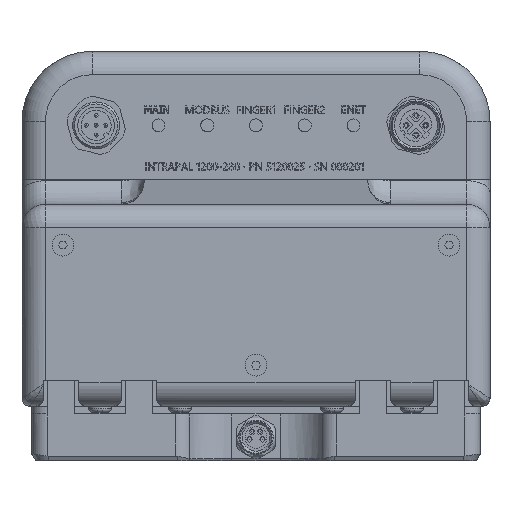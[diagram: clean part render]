
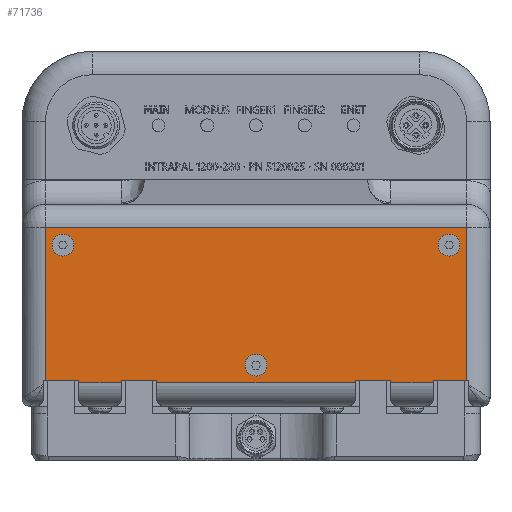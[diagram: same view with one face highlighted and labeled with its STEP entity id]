
A CAD part, front view. The second image highlights one B-rep face of the part: STEP entity #71736.
In plain terms, the highlighted planar face has unit normal (0, -1, 0).
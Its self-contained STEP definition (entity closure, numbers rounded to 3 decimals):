
#4946=FACE_BOUND('',#12518,.T.);
#4947=FACE_BOUND('',#12519,.T.);
#4948=FACE_BOUND('',#12520,.T.);
#5255=CIRCLE('',#74957,2.8);
#5257=CIRCLE('',#74961,2.8);
#5259=CIRCLE('',#74965,2.8);
#8336=FACE_OUTER_BOUND('',#12517,.T.);
#12517=EDGE_LOOP('',(#52214,#52215,#52216,#52217,#52218,#52219,#52220,#52221,
#52222,#52223,#52224,#52225,#52226,#52227,#52228,#52229));
#12518=EDGE_LOOP('',(#52230));
#12519=EDGE_LOOP('',(#52231));
#12520=EDGE_LOOP('',(#52232));
#16209=LINE('',#94226,#22508);
#16216=LINE('',#94253,#22515);
#16223=LINE('',#94267,#22522);
#16224=LINE('',#94271,#22523);
#16231=LINE('',#94286,#22530);
#16236=LINE('',#94311,#22535);
#16241=LINE('',#94350,#22540);
#16248=LINE('',#94377,#22547);
#16255=LINE('',#94393,#22554);
#16263=LINE('',#94421,#22562);
#17895=LINE('',#105535,#24194);
#17896=LINE('',#105537,#24195);
#17897=LINE('',#105539,#24196);
#17898=LINE('',#105540,#24197);
#17899=LINE('',#105541,#24198);
#17900=LINE('',#105542,#24199);
#22508=VECTOR('',#79808,10.);
#22515=VECTOR('',#79825,10.);
#22522=VECTOR('',#79838,10.);
#22523=VECTOR('',#79843,10.);
#22530=VECTOR('',#79858,10.);
#22535=VECTOR('',#79875,10.);
#22540=VECTOR('',#79896,10.);
#22547=VECTOR('',#79913,10.);
#22554=VECTOR('',#79928,10.);
#22562=VECTOR('',#79950,10.);
#24194=VECTOR('',#82884,10.);
#24195=VECTOR('',#82885,10.);
#24196=VECTOR('',#82886,10.);
#24197=VECTOR('',#82887,10.);
#24198=VECTOR('',#82888,10.);
#24199=VECTOR('',#82889,10.);
#28498=VERTEX_POINT('',#93382);
#28500=VERTEX_POINT('',#93389);
#28502=VERTEX_POINT('',#93396);
#28814=VERTEX_POINT('',#94223);
#28815=VERTEX_POINT('',#94225);
#28820=VERTEX_POINT('',#94252);
#28823=VERTEX_POINT('',#94264);
#28824=VERTEX_POINT('',#94266);
#28825=VERTEX_POINT('',#94270);
#28829=VERTEX_POINT('',#94284);
#28833=VERTEX_POINT('',#94309);
#28838=VERTEX_POINT('',#94347);
#28839=VERTEX_POINT('',#94349);
#28844=VERTEX_POINT('',#94376);
#28848=VERTEX_POINT('',#94390);
#28849=VERTEX_POINT('',#94392);
#28856=VERTEX_POINT('',#94419);
#30398=VERTEX_POINT('',#105536);
#30399=VERTEX_POINT('',#105538);
#35812=EDGE_CURVE('',#28498,#28498,#5255,.T.);
#35815=EDGE_CURVE('',#28500,#28500,#5257,.T.);
#35818=EDGE_CURVE('',#28502,#28502,#5259,.T.);
#36230=EDGE_CURVE('',#28815,#28814,#16209,.T.);
#36239=EDGE_CURVE('',#28820,#28815,#16216,.T.);
#36246=EDGE_CURVE('',#28824,#28823,#16223,.T.);
#36248=EDGE_CURVE('',#28825,#28820,#16224,.T.);
#36256=EDGE_CURVE('',#28823,#28829,#16231,.T.);
#36264=EDGE_CURVE('',#28829,#28833,#16236,.T.);
#36274=EDGE_CURVE('',#28839,#28838,#16241,.T.);
#36283=EDGE_CURVE('',#28844,#28839,#16248,.T.);
#36291=EDGE_CURVE('',#28849,#28848,#16255,.T.);
#36303=EDGE_CURVE('',#28848,#28856,#16263,.T.);
#38622=EDGE_CURVE('',#28849,#28833,#17895,.T.);
#38623=EDGE_CURVE('',#30398,#28856,#17896,.T.);
#38624=EDGE_CURVE('',#30399,#30398,#17897,.T.);
#38625=EDGE_CURVE('',#28844,#30399,#17898,.T.);
#38626=EDGE_CURVE('',#28825,#28838,#17899,.T.);
#38627=EDGE_CURVE('',#28824,#28814,#17900,.T.);
#52214=ORIENTED_EDGE('',*,*,#36246,.T.);
#52215=ORIENTED_EDGE('',*,*,#36256,.T.);
#52216=ORIENTED_EDGE('',*,*,#36264,.T.);
#52217=ORIENTED_EDGE('',*,*,#38622,.F.);
#52218=ORIENTED_EDGE('',*,*,#36291,.T.);
#52219=ORIENTED_EDGE('',*,*,#36303,.T.);
#52220=ORIENTED_EDGE('',*,*,#38623,.F.);
#52221=ORIENTED_EDGE('',*,*,#38624,.F.);
#52222=ORIENTED_EDGE('',*,*,#38625,.F.);
#52223=ORIENTED_EDGE('',*,*,#36283,.T.);
#52224=ORIENTED_EDGE('',*,*,#36274,.T.);
#52225=ORIENTED_EDGE('',*,*,#38626,.F.);
#52226=ORIENTED_EDGE('',*,*,#36248,.T.);
#52227=ORIENTED_EDGE('',*,*,#36239,.T.);
#52228=ORIENTED_EDGE('',*,*,#36230,.T.);
#52229=ORIENTED_EDGE('',*,*,#38627,.F.);
#52230=ORIENTED_EDGE('',*,*,#35812,.T.);
#52231=ORIENTED_EDGE('',*,*,#35815,.T.);
#52232=ORIENTED_EDGE('',*,*,#35818,.T.);
#69107=PLANE('',#75886);
#71736=ADVANCED_FACE('',(#8336,#4946,#4947,#4948),#69107,.T.);
#74957=AXIS2_PLACEMENT_3D('',#93383,#79047,#79048);
#74961=AXIS2_PLACEMENT_3D('',#93390,#79056,#79057);
#74965=AXIS2_PLACEMENT_3D('',#93397,#79065,#79066);
#75886=AXIS2_PLACEMENT_3D('',#105534,#82882,#82883);
#79047=DIRECTION('center_axis',(0.,1.,0.));
#79048=DIRECTION('ref_axis',(-1.,0.,0.));
#79056=DIRECTION('center_axis',(0.,1.,0.));
#79057=DIRECTION('ref_axis',(-1.,0.,0.));
#79065=DIRECTION('center_axis',(0.,1.,0.));
#79066=DIRECTION('ref_axis',(-1.,0.,0.));
#79808=DIRECTION('',(0.,0.,-1.));
#79825=DIRECTION('',(1.,0.,0.));
#79838=DIRECTION('',(0.,0.,1.));
#79843=DIRECTION('',(0.,0.,1.));
#79858=DIRECTION('',(1.,0.,0.));
#79875=DIRECTION('',(0.,0.,-1.));
#79896=DIRECTION('',(0.,0.,-1.));
#79913=DIRECTION('',(1.,0.,0.));
#79928=DIRECTION('',(0.,0.,1.));
#79950=DIRECTION('',(1.,0.,0.));
#82882=DIRECTION('center_axis',(0.,-1.,0.));
#82883=DIRECTION('ref_axis',(0.,0.,-1.));
#82884=DIRECTION('',(-1.,0.,0.));
#82885=DIRECTION('',(0.,0.,-1.));
#82886=DIRECTION('',(1.,0.,0.));
#82887=DIRECTION('',(0.,0.,1.));
#82888=DIRECTION('',(-1.,0.,0.));
#82889=DIRECTION('',(-1.,0.,0.));
#93382=CARTESIAN_POINT('',(-46.7,-215.,13.3));
#93383=CARTESIAN_POINT('Origin',(-49.5,-215.,13.3));
#93389=CARTESIAN_POINT('',(52.3,-215.,13.3));
#93390=CARTESIAN_POINT('Origin',(49.5,-215.,13.3));
#93396=CARTESIAN_POINT('',(2.8,-215.,-17.5));
#93397=CARTESIAN_POINT('Origin',(0.,-215.,-17.5));
#94223=CARTESIAN_POINT('',(-25.5,-215.,-22.));
#94225=CARTESIAN_POINT('',(-25.5,-215.,-21.5));
#94226=CARTESIAN_POINT('',(-25.5,-215.,4.25));
#94252=CARTESIAN_POINT('',(-34.5,-215.,-21.5));
#94253=CARTESIAN_POINT('',(-17.25,-215.,-21.5));
#94264=CARTESIAN_POINT('',(25.5,-215.,-21.5));
#94266=CARTESIAN_POINT('',(25.5,-215.,-22.));
#94267=CARTESIAN_POINT('',(25.5,-215.,4.25));
#94270=CARTESIAN_POINT('',(-34.5,-215.,-22.));
#94271=CARTESIAN_POINT('',(-34.5,-215.,2.));
#94284=CARTESIAN_POINT('',(34.5,-215.,-21.5));
#94286=CARTESIAN_POINT('',(17.25,-215.,-21.5));
#94309=CARTESIAN_POINT('',(34.5,-215.,-22.));
#94311=CARTESIAN_POINT('',(34.5,-215.,2.));
#94347=CARTESIAN_POINT('',(-45.5,-215.,-22.));
#94349=CARTESIAN_POINT('',(-45.5,-215.,-21.5));
#94350=CARTESIAN_POINT('',(-45.5,-215.,4.25));
#94376=CARTESIAN_POINT('',(-54.,-215.,-21.5));
#94377=CARTESIAN_POINT('',(-27.25,-215.,-21.5));
#94390=CARTESIAN_POINT('',(45.5,-215.,-21.5));
#94392=CARTESIAN_POINT('',(45.5,-215.,-22.));
#94393=CARTESIAN_POINT('',(45.5,-215.,4.25));
#94419=CARTESIAN_POINT('',(54.,-215.,-21.5));
#94421=CARTESIAN_POINT('',(27.25,-215.,-21.5));
#105534=CARTESIAN_POINT('Origin',(0.,-215.,30.));
#105535=CARTESIAN_POINT('',(0.,-215.,-22.));
#105536=CARTESIAN_POINT('',(54.,-215.,17.8));
#105537=CARTESIAN_POINT('',(54.,-215.,17.359));
#105538=CARTESIAN_POINT('',(-54.,-215.,17.8));
#105539=CARTESIAN_POINT('',(30.,-215.,17.8));
#105540=CARTESIAN_POINT('',(-54.,-215.,17.359));
#105541=CARTESIAN_POINT('',(0.,-215.,-22.));
#105542=CARTESIAN_POINT('',(0.,-215.,-22.));
